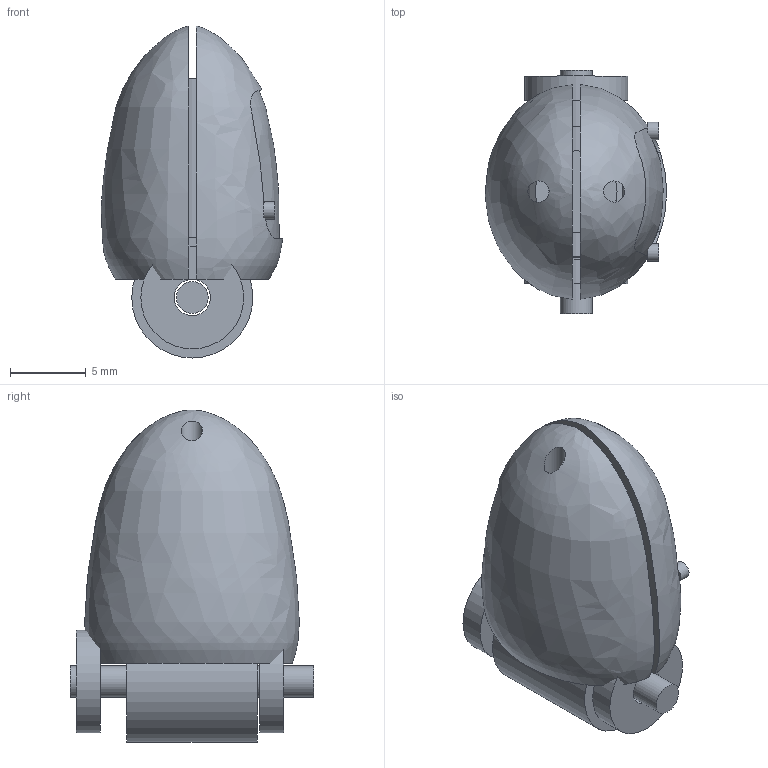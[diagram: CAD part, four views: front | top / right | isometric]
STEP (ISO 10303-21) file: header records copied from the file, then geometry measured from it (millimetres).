
FILE_DESCRIPTION(('FreeCAD Model'),'2;1');
FILE_NAME('Open CASCADE Shape Model','2026-10-05T09:22:58',('Author'),( ''),'Open CASCADE STEP processor 7.8','FreeCAD','Unknown');
FILE_SCHEMA(('AUTOMOTIVE_DESIGN { 1 0 10303 214 1 1 1 1 }'));
Length unit declared in the file: millimetre
Products named in the file (11): Export_ring_distal; ring_distalDorsalShell; ring_distalFlexorShell; ring_distalInsetPad; ring_distalCore; ring_distalHingeBarrel; ring_distalCheek-1; ring_distalCheek1; ring_distalPin; ring_distalScrew_-1_0.32; ring_distalScrew_1_0.32
Assembly tree (10 placements, depth 2):
  Export_ring_distal
    ring_distalDorsalShell
    ring_distalFlexorShell
    ring_distalInsetPad
    ring_distalCore
    ring_distalHingeBarrel
    ring_distalCheek-1
    ring_distalCheek1
    ring_distalPin
    ring_distalScrew_-1_0.32
    ring_distalScrew_1_0.32
Bounding box: 11.99 x 16.1 x 21.95 mm (x, y, z)
Volume: 2310.2 mm3; surface area: 2375.6 mm2
Topology: 10 solids, 10 shells, 61 faces, 110 edges, 68 vertices
Faces by surface type: cylinder 26, plane 24, sphere 8, bspline 3
Full cylindrical faces by diameter (mm): 0.464 x2, 1.16 x2, 1.4 x2, 2.1 x1, 2.4 x3, 5.4 x1, 6.8 x2, 8 x1
Entity records: 2796 total; most frequent: CARTESIAN_POINT 1460, DIRECTION 260, ORIENTED_EDGE 212, AXIS2_PLACEMENT_3D 115, EDGE_CURVE 106, FACE_BOUND 74, EDGE_LOOP 74, VERTEX_POINT 68
